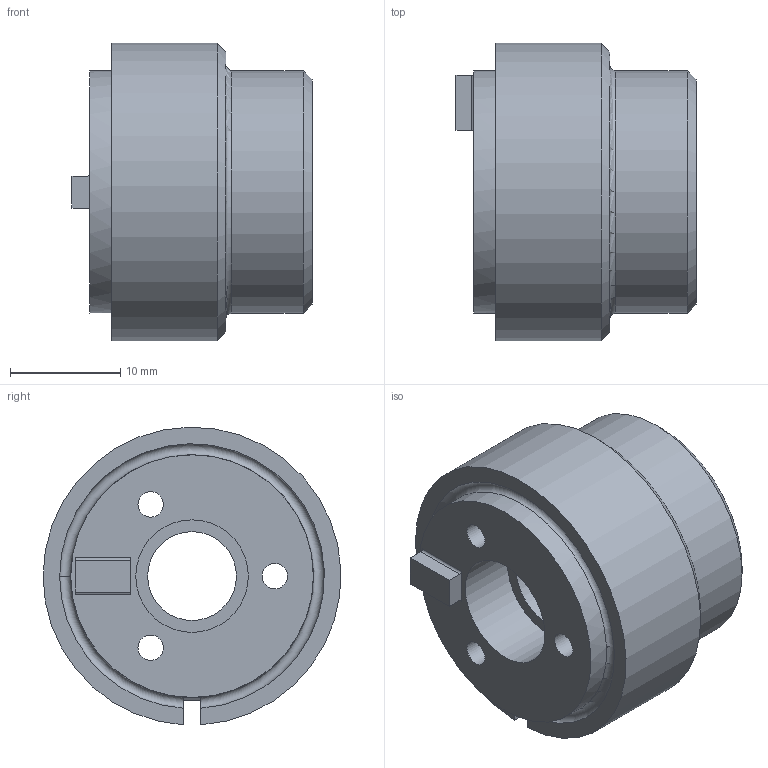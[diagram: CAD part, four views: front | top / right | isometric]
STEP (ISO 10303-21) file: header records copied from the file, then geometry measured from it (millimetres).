
FILE_DESCRIPTION(('Open CASCADE Model'),'2;1');
FILE_NAME('Open CASCADE Shape Model','2026-11-23T18:09:53',('Author'),( 'Open CASCADE'),'Open CASCADE STEP processor 8.0','build123d', 'Unknown');
FILE_SCHEMA(('AUTOMOTIVE_DESIGN { 1 0 10303 214 1 1 1 1 }'));
Length unit declared in the file: millimetre
Products named in the file (1): SOLID
Bounding box: 21.76 x 26.99 x 26.97 mm (x, y, z)
Volume: 7527.9 mm3; surface area: 3951.1 mm2
Topology: 1 solids, 1 shells, 43 faces, 94 edges, 61 vertices
Faces by surface type: plane 21, cylinder 17, torus 3, cone 2
Full cylindrical faces by diameter (mm): 2.3 x3, 3.1 x3, 4.7 x3, 8.05 x1, 10.2 x1, 22 x2
Entity records: 2739 total; most frequent: CARTESIAN_POINT 762, DIRECTION 381, ORIENTED_EDGE 188, PCURVE 188, DEFINITIONAL_REPRESENTATION 188, LINE 171, VECTOR 171, EDGE_CURVE 94
